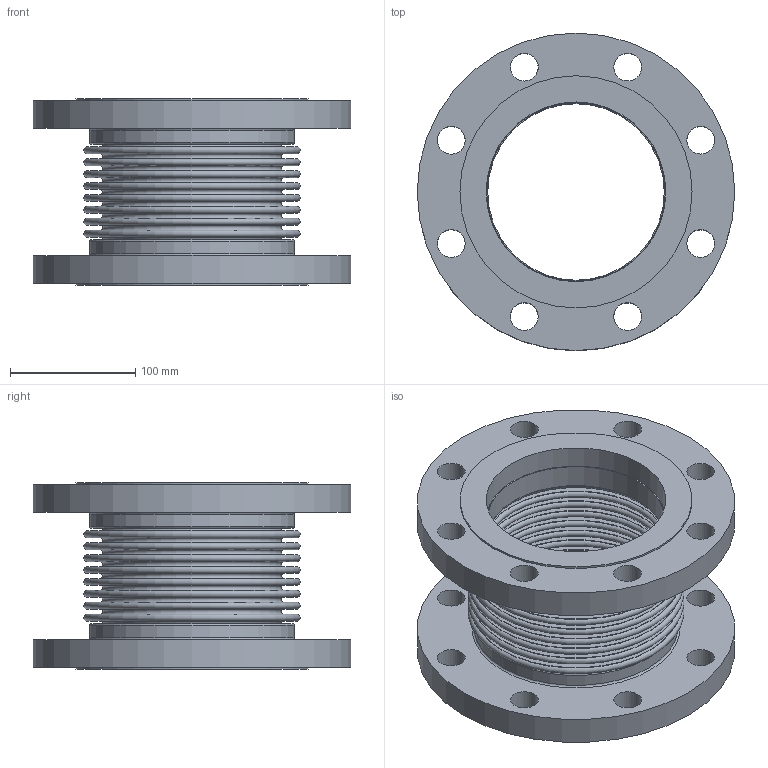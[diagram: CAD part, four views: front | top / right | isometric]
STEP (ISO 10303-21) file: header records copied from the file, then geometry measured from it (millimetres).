
FILE_DESCRIPTION(/* description */ ('EXPANSION JOINT,SINGLE, FLANGED ENDS,5 INCH NOMINAL','CAx-IF Rec.Pracs.---Representation and Presentation of Product Manufacturing Information (PMI)---4.0---2014-10-13'),/* implementation_level */ '2;1');
FILE_NAME(/* name */ 'US-05-8-150S-FLANGED ENDS.stp',/* time_stamp */ '2026-07-31T17:04:02-05:00',/* author */ ('Guadalupe'),/* organization */ (''),/* preprocessor_version */ 'ST-DEVELOPER v20.1',/* originating_system */ 'Autodesk Inventor 2026',/* authorisation */ '');
FILE_SCHEMA (('AP242_MANAGED_MODEL_BASED_3D_ENGINEERING_MIM_LF { 1 0 10303 442 2 1 4 }'));
Length unit declared in the file: inch
Products named in the file (3): 05-150S; 05-150S-02; 05-150S-01
Assembly tree (3 placements, depth 2):
  05-150S
    05-150S-02  x2
    05-150S-01
Bounding box: 254 x 254 x 149.35 mm (x, y, z)
Volume: 1675608.9 mm3; surface area: 550308.3 mm2
Topology: 5 solids, 5 shells, 112 faces, 198 edges, 132 vertices
Faces by surface type: plane 46, torus 38, cylinder 28
Full cylindrical faces by diameter (mm): 22.225 x16, 141.3 x2, 142.824 x2, 143.764 x2, 163.576 x2, 185.674 x2, 254 x2
Entity records: 2558 total; most frequent: DIRECTION 522, CARTESIAN_POINT 377, ORIENTED_EDGE 312, AXIS2_PLACEMENT_3D 253, EDGE_CURVE 156, EDGE_LOOP 152, CIRCLE 140, VERTEX_POINT 104
